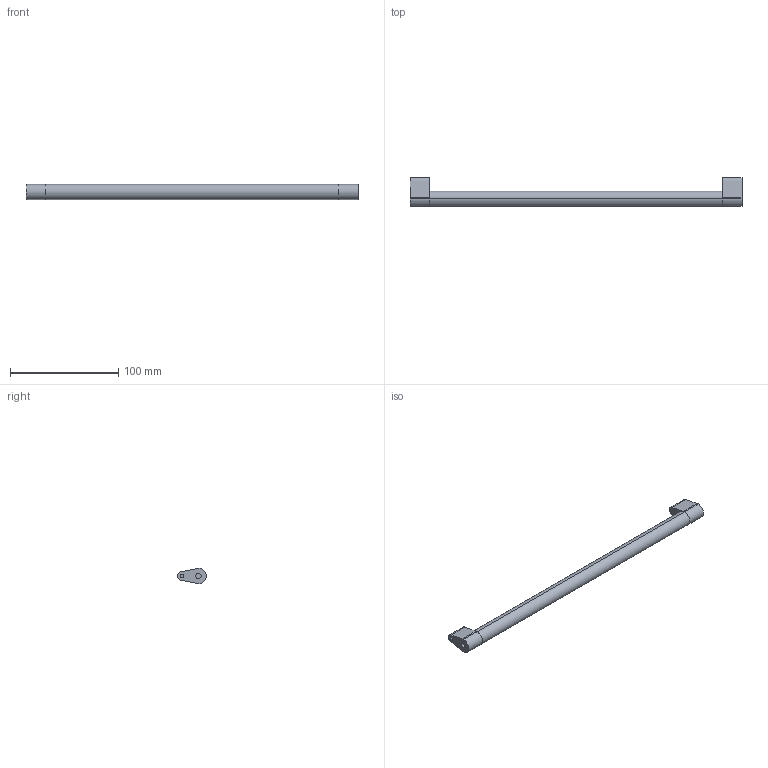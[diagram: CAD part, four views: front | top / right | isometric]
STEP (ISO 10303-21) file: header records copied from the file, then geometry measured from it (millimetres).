
FILE_DESCRIPTION (( 'STEP AP214' ), '1' );
FILE_NAME ('_Synchronisationseinheit DWD XP KAB400_S16.step', '2010-07-08T13:58:15', ( 'grass' ), ( '' ), 'SwSTEP 2.0', 'SolidWorks 2010', '' );
FILE_SCHEMA (( 'AUTOMOTIVE_DESIGN' ));
Length unit declared in the file: millimetre
Products named in the file (1): _Synchronisationseinheit DWD XP KAB400_S16
Bounding box: 307 x 26.5 x 14 mm (x, y, z)
Volume: 50945.8 mm3; surface area: 16349.5 mm2
Topology: 3 solids, 3 shells, 36 faces, 78 edges, 52 vertices
Faces by surface type: cylinder 18, plane 18
Entity records: 1050 total; most frequent: DIRECTION 188, CARTESIAN_POINT 167, ORIENTED_EDGE 156, EDGE_CURVE 78, AXIS2_PLACEMENT_3D 73, VERTEX_POINT 52, LINE 42, VECTOR 42
